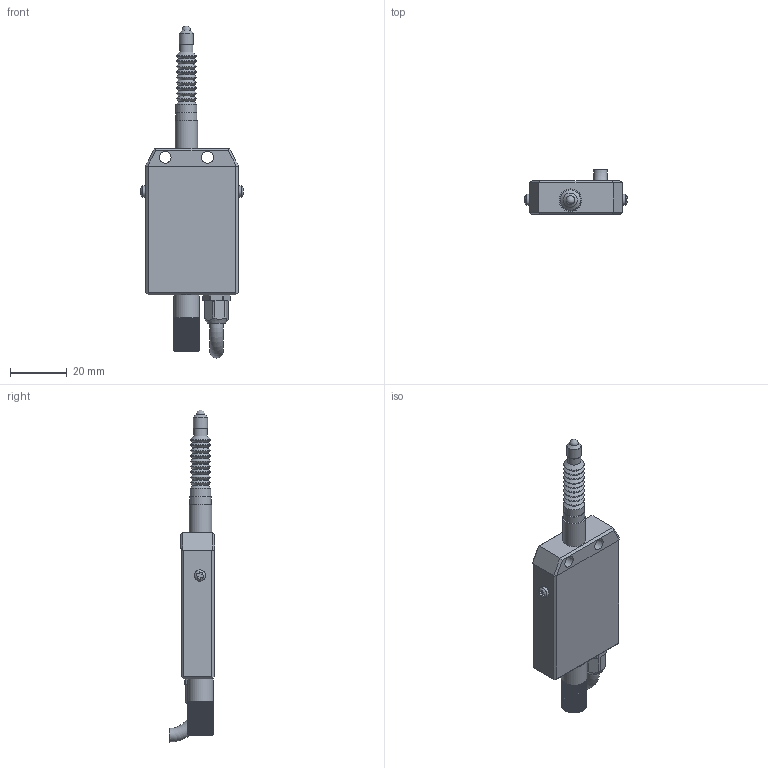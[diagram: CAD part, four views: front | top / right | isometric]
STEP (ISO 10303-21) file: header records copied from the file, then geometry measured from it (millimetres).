
FILE_DESCRIPTION( ( 'STEP AP203' ), '1' );
FILE_NAME( 'N:/Engineering/CAD_Solid/Magnescale/DT- Serie/DT512P/Kunden 3D/DT512P vereinfacht.stp', '2010-08-17T14:15:54', ( ' ' ), ( ' ' ), 'XStep 1.0', ' ', ' ' );
FILE_SCHEMA( ( 'CONFIG_CONTROL_DESIGN) ( )' ) );
Length unit declared in the file: metre
Products named in the file (10): 1; 2; 3; 4; 5; 6; 7; 8; 9; 10
Bounding box: 36.52 x 16 x 117.49 mm (x, y, z)
Surface area: 8100.2 mm2 (no closed solid volume)
Topology: 0 solids, 307 shells, 307 faces, 1810 edges, 1753 vertices
Faces by surface type: plane 242, cone 30, torus 20, cylinder 12, sphere 3
Full cylindrical faces by diameter (mm): 4 x2, 4.2 x2, 4.703 x1, 4.8 x1, 5 x1, 5.917 x1, 7.4 x1, 7.5 x1, 8 x1, 9 x1
Entity records: 17315 total; most frequent: CARTESIAN_POINT 4417, DIRECTION 2416, ORIENTED_EDGE 1707, EDGE_CURVE 1707, VERTEX_POINT 1707, LINE 1260, VECTOR 1260, AXIS2_PLACEMENT_3D 578
